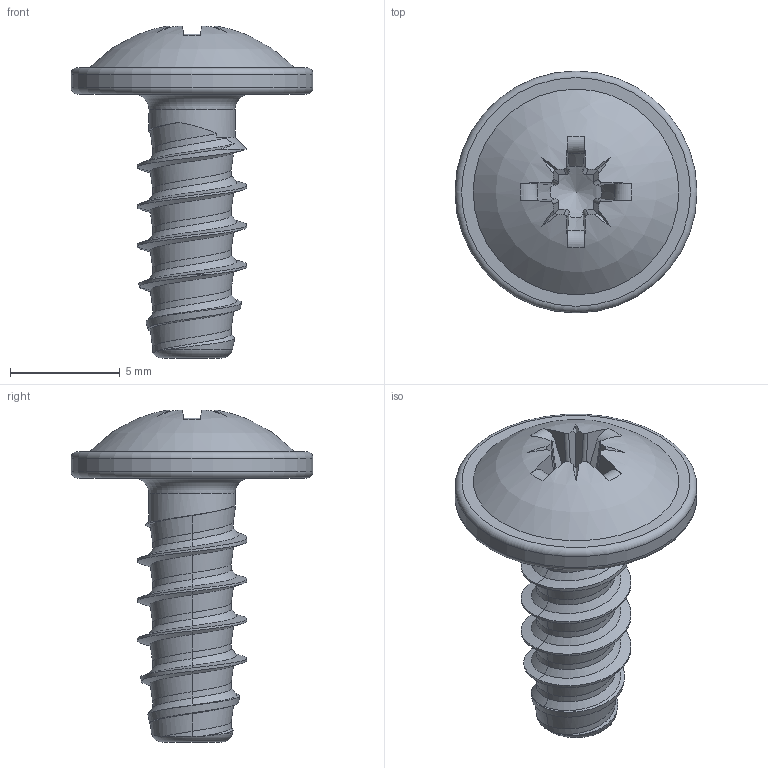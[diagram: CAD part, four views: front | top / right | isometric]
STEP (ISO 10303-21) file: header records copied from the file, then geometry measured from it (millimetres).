
FILE_DESCRIPTION(/* description */ (''),/* implementation_level */ '2;1');
FILE_NAME(/* name */ 'KN6031-STSplus-50x12-Z2.step',/* time_stamp */ '2017-10-09T16:57:32+02:00',/* author */ (''),/* organization */ (''),/* preprocessor_version */ 'ST-DEVELOPER v16',/* originating_system */ 'SIEMENS PLM Software NX 10.0',/* authorisation */ '');
FILE_SCHEMA (('AUTOMOTIVE_DESIGN { 1 0 10303 214 3 1 1 1 }'));
Length unit declared in the file: millimetre
Products named in the file (1): KN6031-STSplus-50x12-Z2
Bounding box: 11 x 11 x 15.09 mm (x, y, z)
Volume: 316.6 mm3; surface area: 445.6 mm2
Topology: 1 solids, 1 shells, 87 faces, 224 edges, 140 vertices
Faces by surface type: bspline 33, plane 27, cylinder 11, torus 8, cone 7, sphere 1
Full cylindrical faces by diameter (mm): 3.92 x1, 11 x1
Entity records: 4563 total; most frequent: CARTESIAN_POINT 2761, ORIENTED_EDGE 420, DIRECTION 267, EDGE_CURVE 210, VERTEX_POINT 135, AXIS2_PLACEMENT_3D 103, B_SPLINE_CURVE_WITH_KNOTS 101, EDGE_LOOP 96
